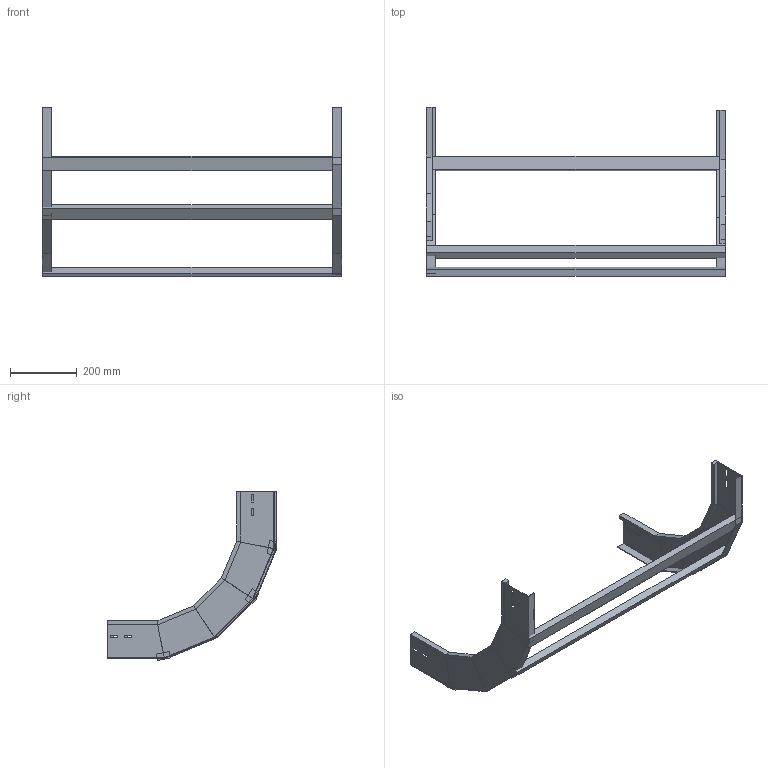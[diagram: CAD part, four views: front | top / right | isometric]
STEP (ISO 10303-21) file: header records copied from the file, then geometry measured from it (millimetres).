
FILE_DESCRIPTION (( 'STEP AP214' ), '1' );
FILE_NAME ('A2X30B3J900XX.step', '2025-04-02T09:21:42', ( '' ), ( '' ), 'SwSTEP 2.0', 'SolidWorks 2023', '' );
FILE_SCHEMA (( 'AUTOMOTIVE_DESIGN' ));
Length unit declared in the file: millimetre
Products named in the file (3): TRAVERSINO_900; A2X30B3J900XX; LONGH.SALITA_90°_H112.5_R300
Assembly tree (5 placements, depth 2):
  A2X30B3J900XX
    LONGH.SALITA_90°_H112.5_R300  x2
    TRAVERSINO_900  x3
Bounding box: 900 x 509.89 x 507.89 mm (x, y, z)
Volume: 2848909.2 mm3; surface area: 797622.1 mm2
Topology: 5 solids, 5 shells, 134 faces, 308 edges, 184 vertices
Faces by surface type: plane 134
Entity records: 1864 total; most frequent: CARTESIAN_POINT 308, ORIENTED_EDGE 296, DIRECTION 292, EDGE_CURVE 148, VECTOR 148, LINE 148, VERTEX_POINT 88, AXIS2_PLACEMENT_3D 72
